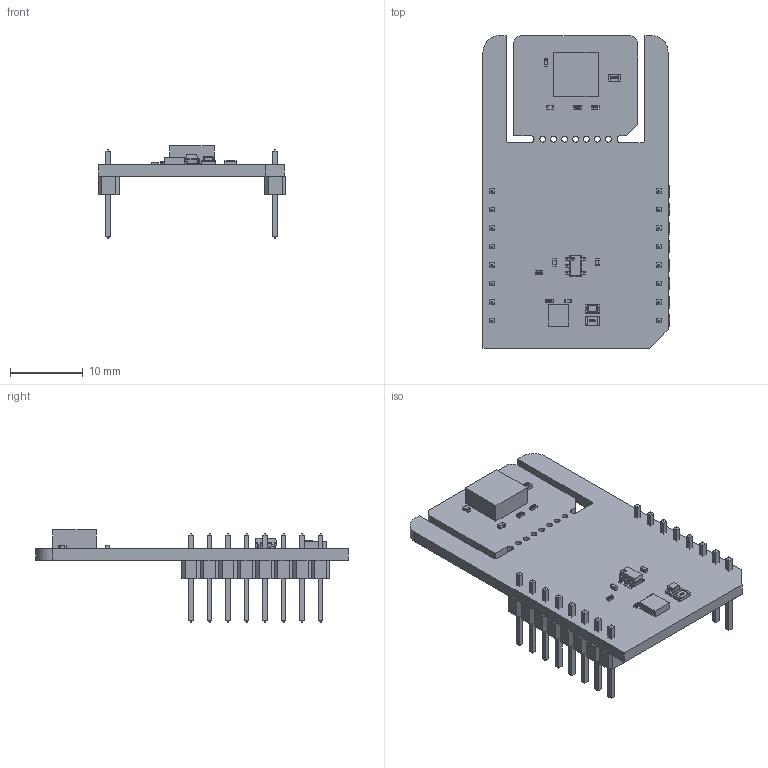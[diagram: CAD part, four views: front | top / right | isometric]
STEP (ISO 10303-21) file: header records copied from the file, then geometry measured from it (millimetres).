
FILE_DESCRIPTION(('Open CASCADE Model'),'2;1');
FILE_NAME('Open CASCADE Shape Model','2025-11-27T09:38:30',('Author'),( 'Open CASCADE'),'Open CASCADE STEP processor 6.8','Open CASCADE 6.8' ,'Unknown');
FILE_SCHEMA(('AUTOMOTIVE_DESIGN { 1 0 10303 214 1 1 1 1 }'));
Length unit declared in the file: millimetre
Products named in the file (34): PCB; Board; R6; User_Library-R_0402; U3; User_Library-SOT23-5-2; U2; 1148283640; Extruded; R4; R3; C5; User_Library-SMD_CAPACITOR0402; C3; C2; C4; JP1; User_Library-R_0603; MBD1; Header_1x8; Free-Models; 1240637040; User_Library-PinHeaderX5-1_PinHeaderX5_Body_1; User_Library-PinHeaderX5-1_PinHeaderX5_Pins_1; U1; 1148279152; C1; R2; LD1; led_0805_green; R1; User_Library-R_0805
Assembly tree (42 placements, depth 7):
  PCB
    Board
    R6
      User_Library-R_0402
    U3
      User_Library-SOT23-5-2
    U2
      1148283640
        Extruded
    R4
      User_Library-R_0402
    R3
      User_Library-R_0402
    C5
      User_Library-SMD_CAPACITOR0402
    C3
      User_Library-SMD_CAPACITOR0402
    C2
      User_Library-SMD_CAPACITOR0402
    C4
      User_Library-SMD_CAPACITOR0402
    JP1
      User_Library-R_0603
    MBD1
      Header_1x8  x2
        PCB
          Free-Models
            1240637040  x2
              User_Library-PinHeaderX5-1_PinHeaderX5_Body_1
              User_Library-PinHeaderX5-1_PinHeaderX5_Pins_1
    U1
      1148279152
        Extruded
    C1
      User_Library-SMD_CAPACITOR0402
    R2
      User_Library-R_0402
    LD1
      led_0805_green
    R1
      User_Library-R_0805
Bounding box: 25.78 x 42.93 x 12.71 mm (x, y, z)
Volume: 2241 mm3; surface area: 3995.8 mm2
Topology: 42 solids, 42 shells, 1390 faces, 3474 edges, 2180 vertices
Faces by surface type: plane 1027, bspline 191, cylinder 126, sphere 46
Full cylindrical faces by diameter (mm): 0.8 x7
Entity records: 28827 total; most frequent: CARTESIAN_POINT 10459, ORIENTED_EDGE 3116, DIRECTION 2565, EDGE_CURVE 1558, LINE 1201, VECTOR 1201, VERTEX_POINT 1004, AXIS2_PLACEMENT_3D 682
